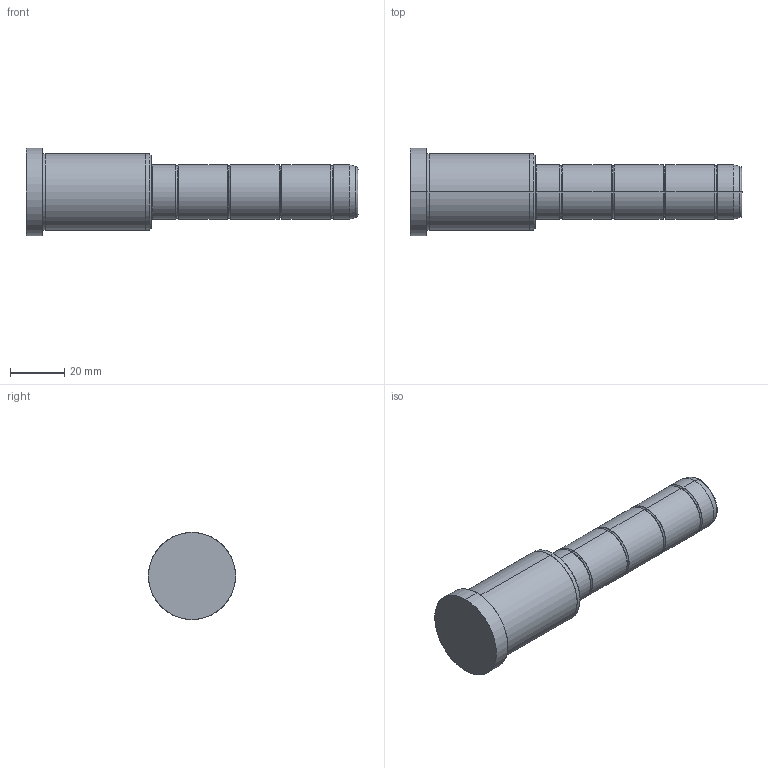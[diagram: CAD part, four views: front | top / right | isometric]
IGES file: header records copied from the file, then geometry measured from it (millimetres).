
Start section: SolidWorks IGES file using analytic representation for surfaces
Global section: file name: C:\Documents and Settings\kalite-mail\Desktop\IGS\D02\20\D02 - 20x46x76.IGS; native system: SolidWorks 2008; preprocessor: SolidWorks 2008; author: kalite-mail; date: 080616.162541; units: millimetre
Bounding box: 122 x 32 x 32 mm (x, y, z)
Surface area: 10538 mm2 (no closed solid volume)
Topology: 0 solids, 0 shells, 48 faces, 712 edges, 712 vertices
Faces by surface type: bspline 26, revolution 22
